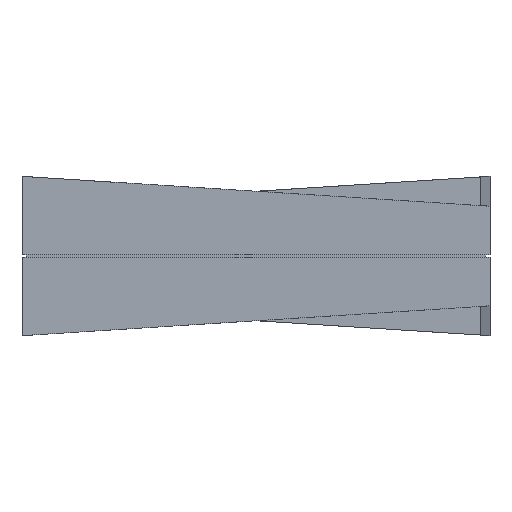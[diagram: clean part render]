
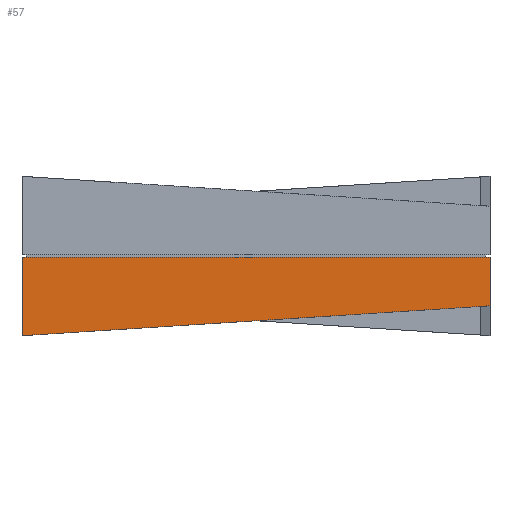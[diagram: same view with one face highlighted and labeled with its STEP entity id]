
A CAD part, front view. The second image highlights one B-rep face of the part: STEP entity #57.
In plain terms, the highlighted planar face has unit normal (0, -1, 0).
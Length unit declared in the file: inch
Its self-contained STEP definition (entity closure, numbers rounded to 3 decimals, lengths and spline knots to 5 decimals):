
#57=ADVANCED_FACE('',(#97),#625,.T.);
#97=FACE_OUTER_BOUND('',#137,.T.);
#137=EDGE_LOOP('',(#316,#317,#318,#319));
#316=ORIENTED_EDGE('',*,*,#425,.T.);
#317=ORIENTED_EDGE('',*,*,#406,.F.);
#318=ORIENTED_EDGE('',*,*,#424,.F.);
#319=ORIENTED_EDGE('',*,*,#420,.F.);
#406=EDGE_CURVE('',#574,#575,#502,.T.);
#420=EDGE_CURVE('',#581,#585,#516,.T.);
#424=EDGE_CURVE('',#585,#574,#520,.T.);
#425=EDGE_CURVE('',#581,#575,#521,.T.);
#502=B_SPLINE_CURVE_WITH_KNOTS('',1,(#1081,#1082),.UNSPECIFIED.,.F.,.F.,
(2,2),(-127.73912,-104.19129),.UNSPECIFIED.);
#516=B_SPLINE_CURVE_WITH_KNOTS('',1,(#1117,#1118),.UNSPECIFIED.,.F.,.F.,
(2,2),(0.,23.5),.UNSPECIFIED.);
#520=B_SPLINE_CURVE_WITH_KNOTS('',1,(#1125,#1126),.UNSPECIFIED.,.F.,.F.,
(2,2),(-129.68912,-127.73912),.UNSPECIFIED.);
#521=B_SPLINE_CURVE_WITH_KNOTS('',1,(#1127,#1128),.UNSPECIFIED.,.F.,.F.,
(2,2),(589.57797,593.51547),.UNSPECIFIED.);
#574=VERTEX_POINT('',#1063);
#575=VERTEX_POINT('',#1064);
#581=VERTEX_POINT('',#1070);
#585=VERTEX_POINT('',#1074);
#625=PLANE('',#756);
#756=AXIS2_PLACEMENT_3D('',#1058,#799,$);
#799=DIRECTION('',(0.,-1.,0.));
#1058=CARTESIAN_POINT('',(1128.94374,-238.85912,248.83914));
#1063=CARTESIAN_POINT('',(1152.44374,-238.85912,246.40164));
#1064=CARTESIAN_POINT('',(1128.94374,-238.85912,244.90164));
#1070=CARTESIAN_POINT('',(1128.94374,-238.85912,248.83914));
#1074=CARTESIAN_POINT('',(1152.44374,-238.85912,248.83914));
#1081=CARTESIAN_POINT('',(1152.44374,-238.85912,246.40164));
#1082=CARTESIAN_POINT('',(1128.94374,-238.85912,244.90164));
#1117=CARTESIAN_POINT('',(1128.94374,-238.85912,248.83914));
#1118=CARTESIAN_POINT('',(1152.44374,-238.85912,248.83914));
#1125=CARTESIAN_POINT('',(1152.44374,-238.85912,248.83914));
#1126=CARTESIAN_POINT('',(1152.44374,-238.85912,246.40164));
#1127=CARTESIAN_POINT('',(1128.94374,-238.85912,248.83914));
#1128=CARTESIAN_POINT('',(1128.94374,-238.85912,244.90164));
